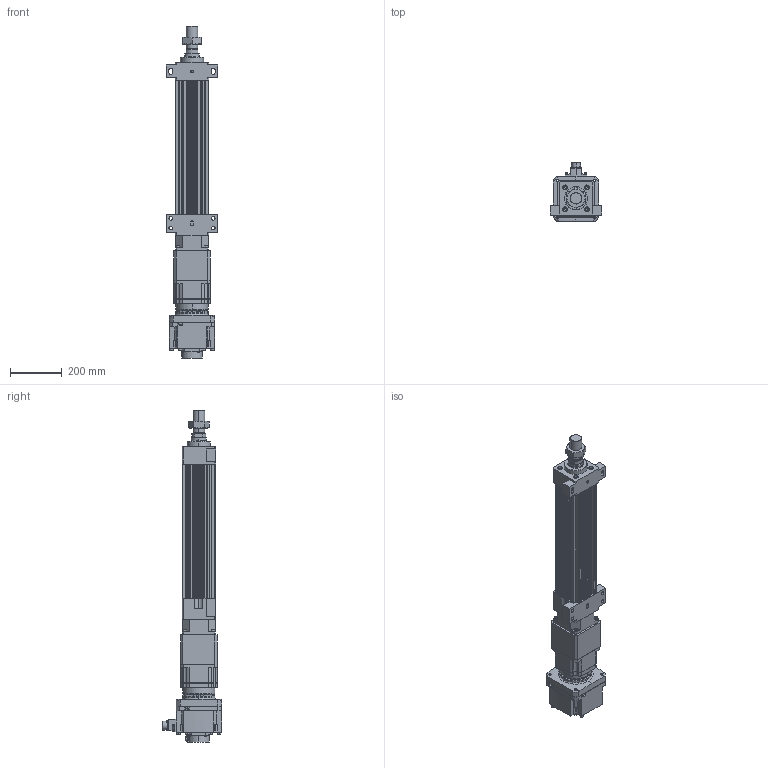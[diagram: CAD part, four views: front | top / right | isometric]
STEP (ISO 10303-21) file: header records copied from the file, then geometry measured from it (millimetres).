
FILE_DESCRIPTION (( 'STEP AP203' ), '1' );
FILE_NAME ('HES130FS(HS)-S300-W020G00-M-FFB.STEP', '2023-01-30T12:30:38', ( 'tms' ), ( '' ), 'SwSTEP 2.0', 'SolidWorks 2013', '' );
FILE_SCHEMA (( 'CONFIG_CONTROL_DESIGN' ));
Length unit declared in the file: millimetre
Products named in the file (9): P1301500001; M45X1.5P; AB142-003[HG-SR352]; HES130-S300-G142-FFB; AB1421; HES130FS(HS)-S300-W020G00-M-FFB; HG-SR202; P0403500801; HES130 ROD M ST300
Assembly tree (8 placements, depth 3):
  HES130FS(HS)-S300-W020G00-M-FFB
    HES130-S300-G142-FFB
    HES130 ROD M ST300
    M45X1.5P
    AB142-003[HG-SR352]
      AB1421
      P1301500001
      P0403500801
    HG-SR202
Bounding box: 200 x 228.85 x 1287.5 mm (x, y, z)
Volume: 11613122.2 mm3; surface area: 1468840.9 mm2
Topology: 4 solids, 22 shells, 1518 faces, 3922 edges, 2545 vertices
Faces by surface type: cylinder 676, plane 600, cone 160, bspline 76, torus 6
Entity records: 55270 total; most frequent: CARTESIAN_POINT 16778, DIRECTION 8032, ORIENTED_EDGE 7750, EDGE_CURVE 3897, AXIS2_PLACEMENT_3D 3016, VERTEX_POINT 2545, VECTOR 2000, LINE 2000
